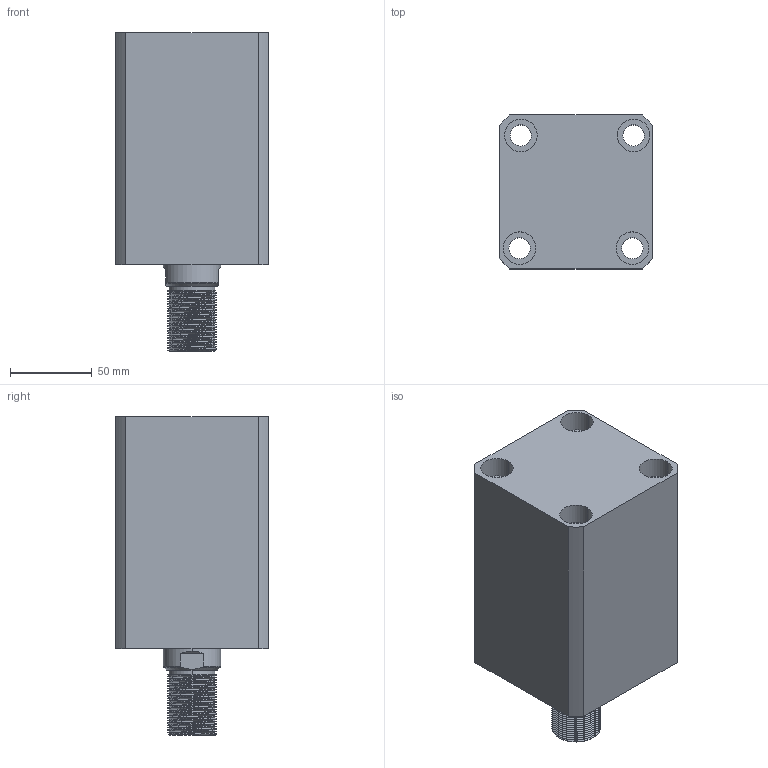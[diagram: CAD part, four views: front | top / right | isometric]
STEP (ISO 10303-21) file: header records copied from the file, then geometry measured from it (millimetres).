
FILE_DESCRIPTION (( 'STEP AP214' ), '1' );
FILE_NAME ('chtb-sdma63x75w_asm.STEP', '2018-05-18T09:40:04', ( 'Windows' ), ( 'Microsoft' ), 'SwSTEP 2.0', 'SolidWorks 2015', '' );
FILE_SCHEMA (( 'AUTOMOTIVE_DESIGN' ));
Length unit declared in the file: millimetre
Products named in the file (4): CHTB-SDMA63X75NBT; CHTB63X75WHSG; CHTB-63QG; chtb-sdma63x75w_asm
Assembly tree (3 placements, depth 2):
  chtb-sdma63x75w_asm
    CHTB-63QG
    CHTB63X75WHSG
    CHTB-SDMA63X75NBT
Bounding box: 94 x 94 x 195 mm (x, y, z)
Volume: 1023207.6 mm3; surface area: 171774.8 mm2
Topology: 3 solids, 3 shells, 219 faces, 632 edges, 430 vertices
Faces by surface type: cylinder 156, plane 34, bspline 14, cone 9, torus 6
Entity records: 22297 total; most frequent: CARTESIAN_POINT 17024, ORIENTED_EDGE 1256, DIRECTION 878, EDGE_CURVE 628, VERTEX_POINT 430, AXIS2_PLACEMENT_3D 343, EDGE_LOOP 252, ADVANCED_FACE 219
